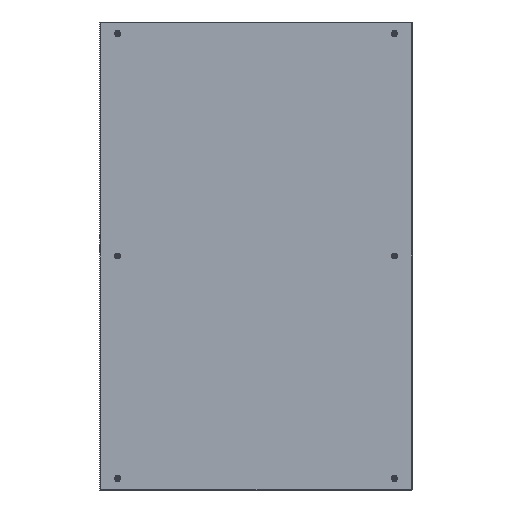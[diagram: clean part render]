
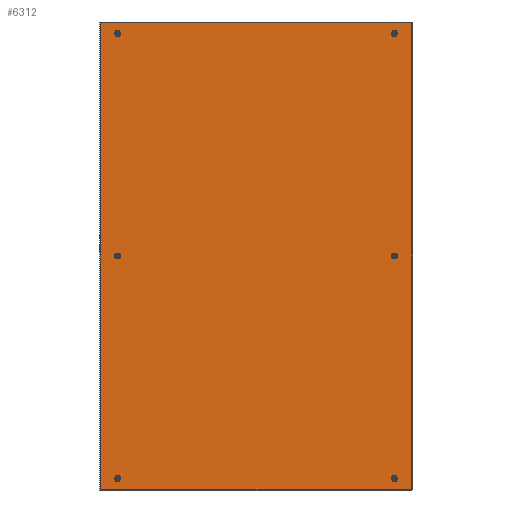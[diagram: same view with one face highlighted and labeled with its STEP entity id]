
A CAD part, left-side view. The second image highlights one B-rep face of the part: STEP entity #6312.
In plain terms, the highlighted planar face has unit normal (-1, 0, 0).
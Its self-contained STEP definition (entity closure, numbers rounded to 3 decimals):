
#533=CIRCLE('',#8146,5.125);
#535=CIRCLE('',#8149,5.125);
#537=CIRCLE('',#8152,5.125);
#539=CIRCLE('',#8155,5.125);
#541=CIRCLE('',#8158,5.125);
#542=CIRCLE('',#8191,5.125);
#1871=ORIENTED_EDGE('',*,*,#2952,.T.);
#1872=ORIENTED_EDGE('',*,*,#2953,.T.);
#1873=ORIENTED_EDGE('',*,*,#2954,.T.);
#1874=ORIENTED_EDGE('',*,*,#2955,.T.);
#1875=ORIENTED_EDGE('',*,*,#2834,.F.);
#1876=ORIENTED_EDGE('',*,*,#2836,.F.);
#1877=ORIENTED_EDGE('',*,*,#2838,.F.);
#1878=ORIENTED_EDGE('',*,*,#2840,.F.);
#1879=ORIENTED_EDGE('',*,*,#2842,.F.);
#1880=ORIENTED_EDGE('',*,*,#2956,.F.);
#2834=EDGE_CURVE('',#3491,#3491,#533,.T.);
#2836=EDGE_CURVE('',#3493,#3493,#535,.T.);
#2838=EDGE_CURVE('',#3495,#3495,#537,.T.);
#2840=EDGE_CURVE('',#3497,#3497,#539,.T.);
#2842=EDGE_CURVE('',#3499,#3499,#541,.T.);
#2952=EDGE_CURVE('',#3582,#3583,#4186,.T.);
#2953=EDGE_CURVE('',#3583,#3584,#4187,.T.);
#2954=EDGE_CURVE('',#3584,#3585,#4188,.T.);
#2955=EDGE_CURVE('',#3585,#3582,#4189,.T.);
#2956=EDGE_CURVE('',#3586,#3586,#542,.T.);
#3491=VERTEX_POINT('',#11400);
#3493=VERTEX_POINT('',#11405);
#3495=VERTEX_POINT('',#11410);
#3497=VERTEX_POINT('',#11415);
#3499=VERTEX_POINT('',#11420);
#3582=VERTEX_POINT('',#11645);
#3583=VERTEX_POINT('',#11646);
#3584=VERTEX_POINT('',#11648);
#3585=VERTEX_POINT('',#11650);
#3586=VERTEX_POINT('',#11653);
#4186=LINE('',#11644,#4792);
#4187=LINE('',#11647,#4793);
#4188=LINE('',#11649,#4794);
#4189=LINE('',#11651,#4795);
#4792=VECTOR('',#9771,1000.);
#4793=VECTOR('',#9772,1000.);
#4794=VECTOR('',#9773,1000.);
#4795=VECTOR('',#9774,1000.);
#5223=EDGE_LOOP('',(#1871,#1872,#1873,#1874));
#5224=EDGE_LOOP('',(#1875));
#5225=EDGE_LOOP('',(#1876));
#5226=EDGE_LOOP('',(#1877));
#5227=EDGE_LOOP('',(#1878));
#5228=EDGE_LOOP('',(#1879));
#5229=EDGE_LOOP('',(#1880));
#5675=FACE_BOUND('',#5223,.T.);
#5676=FACE_BOUND('',#5224,.T.);
#5677=FACE_BOUND('',#5225,.T.);
#5678=FACE_BOUND('',#5226,.T.);
#5679=FACE_BOUND('',#5227,.T.);
#5680=FACE_BOUND('',#5228,.T.);
#5681=FACE_BOUND('',#5229,.T.);
#5984=PLANE('',#8190);
#6312=ADVANCED_FACE('',(#5675,#5676,#5677,#5678,#5679,#5680,#5681),#5984,
 .T.);
#8146=AXIS2_PLACEMENT_3D('',#11399,#9572,#9573);
#8149=AXIS2_PLACEMENT_3D('',#11404,#9578,#9579);
#8152=AXIS2_PLACEMENT_3D('',#11409,#9584,#9585);
#8155=AXIS2_PLACEMENT_3D('',#11414,#9590,#9591);
#8158=AXIS2_PLACEMENT_3D('',#11419,#9596,#9597);
#8190=AXIS2_PLACEMENT_3D('',#11643,#9769,#9770);
#8191=AXIS2_PLACEMENT_3D('',#11652,#9775,#9776);
#9572=DIRECTION('',(-1.,0.,0.));
#9573=DIRECTION('',(0.,-1.,0.));
#9578=DIRECTION('',(-1.,0.,0.));
#9579=DIRECTION('',(0.,-1.,0.));
#9584=DIRECTION('',(-1.,0.,0.));
#9585=DIRECTION('',(0.,-1.,0.));
#9590=DIRECTION('',(-1.,0.,0.));
#9591=DIRECTION('',(0.,-1.,0.));
#9596=DIRECTION('',(-1.,0.,0.));
#9597=DIRECTION('',(0.,-1.,0.));
#9769=DIRECTION('',(-1.,0.,0.));
#9770=DIRECTION('',(0.,-1.,0.));
#9771=DIRECTION('',(0.,1.,0.));
#9772=DIRECTION('',(0.,0.,-1.));
#9773=DIRECTION('',(0.,-1.,0.));
#9774=DIRECTION('',(0.,0.,1.));
#9775=DIRECTION('',(-1.,0.,0.));
#9776=DIRECTION('',(0.,-1.,0.));
#11399=CARTESIAN_POINT('',(-1.5,355.,-570.));
#11400=CARTESIAN_POINT('',(-1.5,349.875,-570.));
#11404=CARTESIAN_POINT('',(-1.5,355.,0.));
#11405=CARTESIAN_POINT('',(-1.5,349.875,0.));
#11409=CARTESIAN_POINT('',(-1.5,355.,570.));
#11410=CARTESIAN_POINT('',(-1.5,349.875,570.));
#11414=CARTESIAN_POINT('',(-1.5,-355.,-570.));
#11415=CARTESIAN_POINT('',(-1.5,-360.125,-570.));
#11419=CARTESIAN_POINT('',(-1.5,-355.,0.));
#11420=CARTESIAN_POINT('',(-1.5,-360.125,0.));
#11643=CARTESIAN_POINT('',(-1.5,0.,0.));
#11644=CARTESIAN_POINT('',(-1.5,0.,600.));
#11645=CARTESIAN_POINT('',(-1.5,-400.,600.));
#11646=CARTESIAN_POINT('',(-1.5,400.,600.));
#11647=CARTESIAN_POINT('',(-1.5,400.,0.));
#11648=CARTESIAN_POINT('',(-1.5,400.,-600.));
#11649=CARTESIAN_POINT('',(-1.5,0.,-600.));
#11650=CARTESIAN_POINT('',(-1.5,-400.,-600.));
#11651=CARTESIAN_POINT('',(-1.5,-400.,0.));
#11652=CARTESIAN_POINT('',(-1.5,-355.,570.));
#11653=CARTESIAN_POINT('',(-1.5,-360.125,570.));
